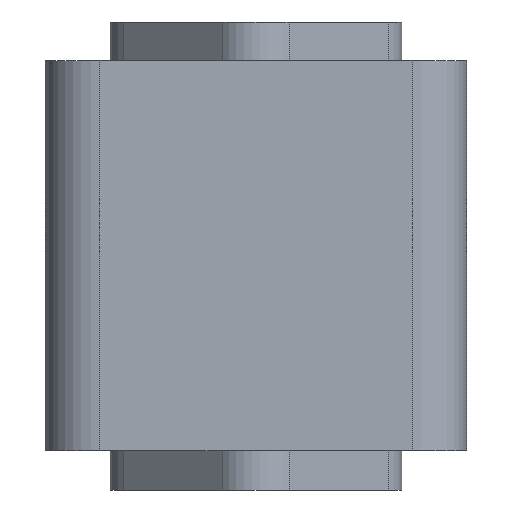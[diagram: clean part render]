
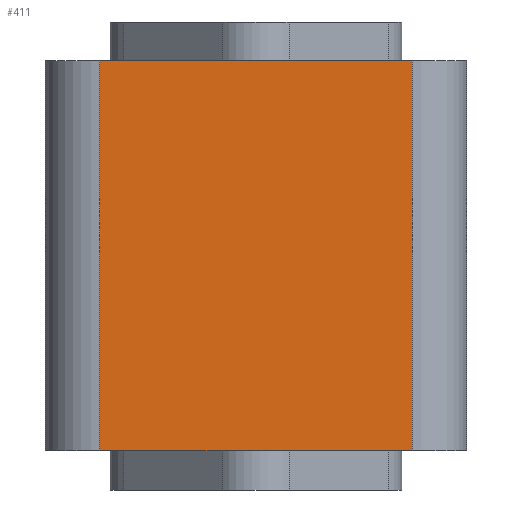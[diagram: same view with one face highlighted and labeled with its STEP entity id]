
A CAD part, front view. The second image highlights one B-rep face of the part: STEP entity #411.
In plain terms, the highlighted planar face has unit normal (0, -1, 0).
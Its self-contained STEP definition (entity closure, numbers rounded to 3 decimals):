
#346=CARTESIAN_POINT('',(10.,-13.5,25.0));
#347=VERTEX_POINT('',#346);
#355=CARTESIAN_POINT('',(10.,-13.5,0.0));
#356=VERTEX_POINT('',#355);
#357=CARTESIAN_POINT('',(10.,-13.5,0.0));
#358=DIRECTION('',(0.0,0.0,1.0));
#359=VECTOR('',#358,25.0);
#360=LINE('',#357,#359);
#361=EDGE_CURVE('',#356,#347,#360,.T.);
#381=CARTESIAN_POINT('',(10.,-13.5,0.0));
#382=DIRECTION('',(0.0,-1.0,0.0));
#383=DIRECTION('',(0.0,0.0,-1.0));
#384=AXIS2_PLACEMENT_3D('',#381,#382,#383);
#385=PLANE('',#384);
#386=CARTESIAN_POINT('',(-10.,-13.5,25.0));
#387=VERTEX_POINT('',#386);
#388=CARTESIAN_POINT('',(10.,-13.5,25.0));
#389=DIRECTION('',(-1.0,0.0,0.0));
#390=VECTOR('',#389,20.);
#391=LINE('',#388,#390);
#392=EDGE_CURVE('',#347,#387,#391,.T.);
#393=ORIENTED_EDGE('',*,*,#392,.T.);
#394=CARTESIAN_POINT('',(-10.,-13.5,0.0));
#395=VERTEX_POINT('',#394);
#396=CARTESIAN_POINT('',(-10.,-13.5,0.0));
#397=DIRECTION('',(0.0,0.0,1.0));
#398=VECTOR('',#397,25.0);
#399=LINE('',#396,#398);
#400=EDGE_CURVE('',#395,#387,#399,.T.);
#401=ORIENTED_EDGE('',*,*,#400,.F.);
#402=CARTESIAN_POINT('',(-10.,-13.5,0.0));
#403=DIRECTION('',(1.0,0.0,0.0));
#404=VECTOR('',#403,20.);
#405=LINE('',#402,#404);
#406=EDGE_CURVE('',#395,#356,#405,.T.);
#407=ORIENTED_EDGE('',*,*,#406,.T.);
#408=ORIENTED_EDGE('',*,*,#361,.T.);
#409=EDGE_LOOP('',(#393,#401,#407,#408));
#410=FACE_OUTER_BOUND('',#409,.T.);
#411=ADVANCED_FACE('',(#410),#385,.T.);
